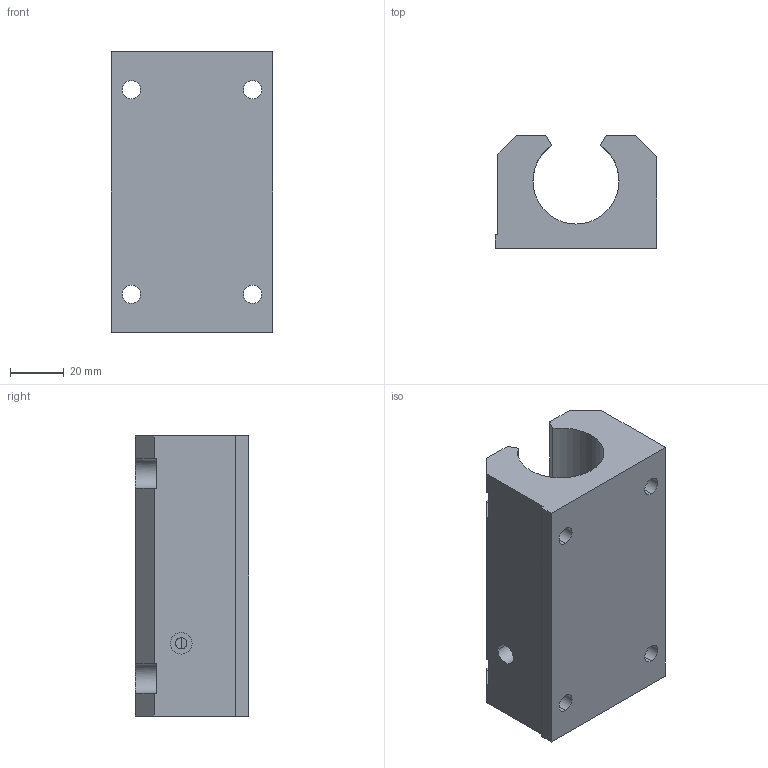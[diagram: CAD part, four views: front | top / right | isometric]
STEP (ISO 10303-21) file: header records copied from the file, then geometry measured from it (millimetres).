
FILE_DESCRIPTION (( 'STEP AP214' ), '1' );
FILE_NAME ('KTGO87-I-20.step', '2020-03-04T13:32:31', ( '' ), ( '' ), 'SwSTEP 2.0', 'SolidWorks 2019', '' );
FILE_SCHEMA (( 'AUTOMOTIVE_DESIGN' ));
Length unit declared in the file: millimetre
Products named in the file (1): KTGO87-I-20
Bounding box: 60 x 42 x 104 mm (x, y, z)
Volume: 155186.7 mm3; surface area: 34531.9 mm2
Topology: 1 solids, 1 shells, 60 faces, 162 edges, 104 vertices
Faces by surface type: plane 31, cylinder 27, cone 2
Entity records: 2246 total; most frequent: CARTESIAN_POINT 515, ORIENTED_EDGE 324, DIRECTION 318, EDGE_CURVE 162, AXIS2_PLACEMENT_3D 109, VERTEX_POINT 104, LINE 100, VECTOR 100
